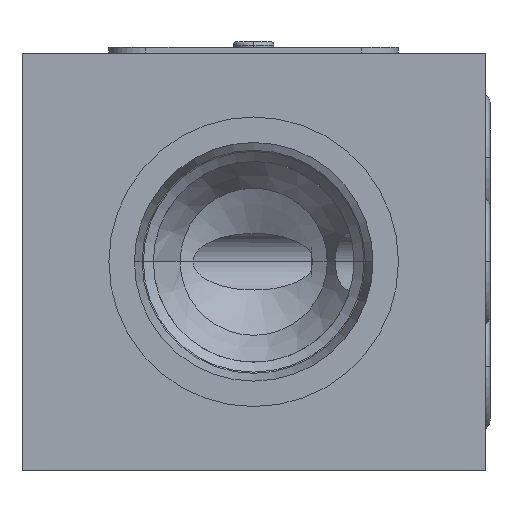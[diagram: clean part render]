
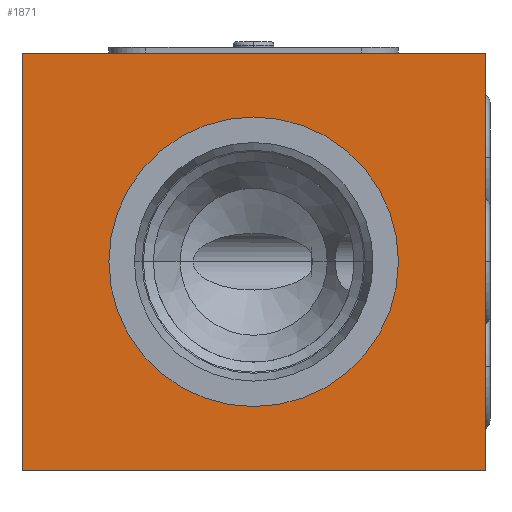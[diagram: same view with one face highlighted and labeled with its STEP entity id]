
A CAD part, left-side view. The second image highlights one B-rep face of the part: STEP entity #1871.
In plain terms, the highlighted planar face has unit normal (-1, 0, 0).
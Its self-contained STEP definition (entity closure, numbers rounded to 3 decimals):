
#52=DIRECTION('',(0.,0.,-1.));
#53=VECTOR('',#52,36.);
#54=CARTESIAN_POINT('',(0.,0.,0.));
#55=LINE('',#54,#53);
#59=DIRECTION('',(0.,1.,0.));
#60=VECTOR('',#59,40.);
#61=CARTESIAN_POINT('',(0.,0.,-36.));
#62=LINE('',#61,#60);
#66=DIRECTION('',(0.,0.,1.));
#67=VECTOR('',#66,36.);
#68=CARTESIAN_POINT('',(0.,40.,-36.));
#69=LINE('',#68,#67);
#73=DIRECTION('',(0.,-1.,0.));
#74=VECTOR('',#73,40.);
#75=CARTESIAN_POINT('',(0.,40.,0.));
#76=LINE('',#75,#74);
#80=CARTESIAN_POINT('',(0.,20.,-18.));
#81=DIRECTION('',(1.,0.,0.));
#82=DIRECTION('',(0.,-1.,0.));
#83=AXIS2_PLACEMENT_3D('',#80,#81,#82);
#88=CARTESIAN_POINT('',(0.,20.,-18.));
#89=DIRECTION('',(1.,0.,0.));
#90=DIRECTION('',(0.,1.,0.));
#91=AXIS2_PLACEMENT_3D('',#88,#89,#90);
#1640=CARTESIAN_POINT('',(0.,0.,0.));
#1641=CARTESIAN_POINT('',(0.,0.,-36.));
#1642=VERTEX_POINT('',#1640);
#1643=VERTEX_POINT('',#1641);
#1644=CARTESIAN_POINT('',(0.,40.,-36.));
#1645=VERTEX_POINT('',#1644);
#1646=CARTESIAN_POINT('',(0.,40.,0.));
#1647=VERTEX_POINT('',#1646);
#1758=CARTESIAN_POINT('',(0.,7.5,-18.));
#1759=VERTEX_POINT('',#1758);
#1760=CARTESIAN_POINT('',(0.,32.5,-18.));
#1761=VERTEX_POINT('',#1760);
#1850=CARTESIAN_POINT('',(0.,0.,0.));
#1851=DIRECTION('',(1.,0.,0.));
#1852=DIRECTION('',(0.,0.,-1.));
#1853=AXIS2_PLACEMENT_3D('',#1850,#1851,#1852);
#1854=PLANE('',#1853);
#1856=ORIENTED_EDGE('',*,*,#1855,.T.);
#1858=ORIENTED_EDGE('',*,*,#1857,.T.);
#1860=ORIENTED_EDGE('',*,*,#1859,.T.);
#1862=ORIENTED_EDGE('',*,*,#1861,.T.);
#1863=EDGE_LOOP('',(#1856,#1858,#1860,#1862));
#1864=FACE_OUTER_BOUND('',#1863,.F.);
#1866=ORIENTED_EDGE('',*,*,#1865,.F.);
#1868=ORIENTED_EDGE('',*,*,#1867,.F.);
#1869=EDGE_LOOP('',(#1866,#1868));
#1870=FACE_BOUND('',#1869,.F.);
#84=CIRCLE('',#83,12.5);
#92=CIRCLE('',#91,12.5);
#1855=EDGE_CURVE('',#1642,#1643,#55,.T.);
#1857=EDGE_CURVE('',#1643,#1645,#62,.T.);
#1859=EDGE_CURVE('',#1645,#1647,#69,.T.);
#1861=EDGE_CURVE('',#1647,#1642,#76,.T.);
#1865=EDGE_CURVE('',#1759,#1761,#84,.T.);
#1867=EDGE_CURVE('',#1761,#1759,#92,.T.);
#1871=ADVANCED_FACE('',(#1864,#1870),#1854,.F.);
